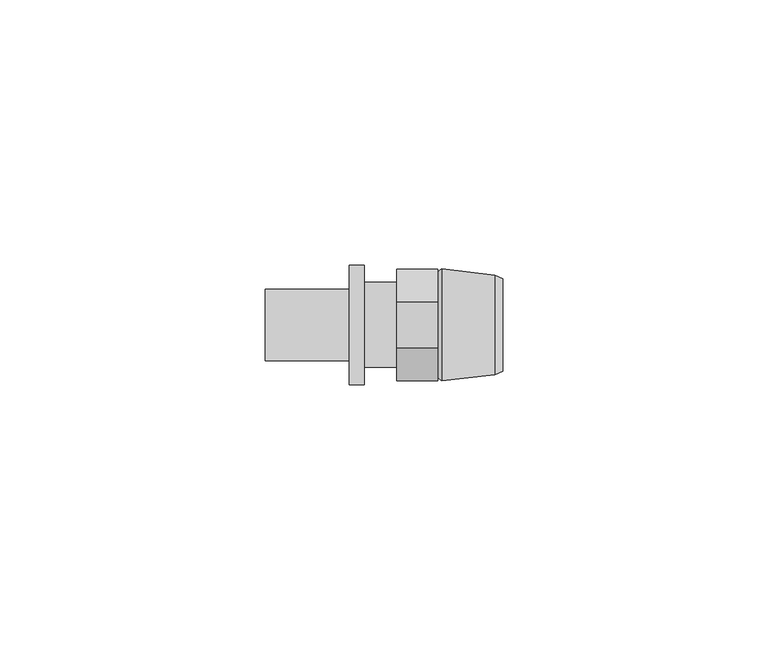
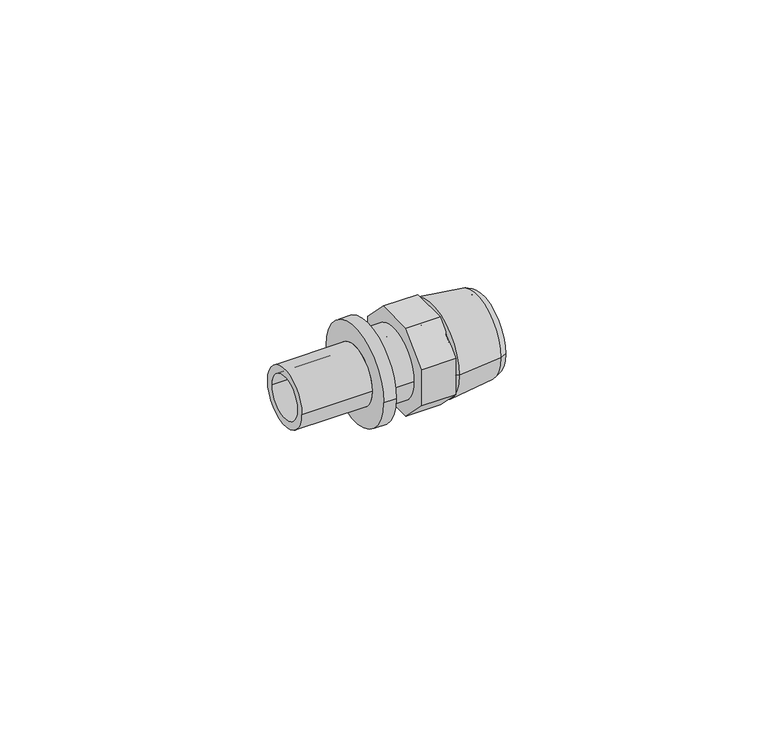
"""IFC4 building model written with IfcOpenShell, lengths in millimetres: pipe fitting geometry, REHAU_RAUTITAN_Adaptor_RX+, with external thread : REHAU_RAUTITAN_Adaptor_RX+, with external thread."""

from ifc_helpers import new_model, si_unit, point, frame, origin, origin_2d, place, context, project, spatial, polyline, circle_curve, trimmed, segment, composite_curve, outline, extrude, source, transform, mapped, element, save
from ifc_brep_helpers import plane_surface, cylinder_surface, revolved_surface, advanced_brep


def pipe_fitting_c5a5d3f0(model_context):
    return source(origin(), model_context, "Body", "SolidModel", [
        advanced_brep(
        [(8.8232803, 7.5, 0.0), (8.8232803, -7.5, 0.0), (19.99, -7.5, 0.0), (19.99, 7.5, 0.0), (7.72, 6.3967197, 0.0), (7.72, -6.3967197, 0.0), (8.4606902, 10.55, 0.0), (8.4606902, -10.55, 0.0), (7.72, -10.0, 0.0), (7.72, 10.0, 0.0), (18.4900007, 9.39, 0.0), (18.4900007, -9.39, 0.0), (19.99, 8.725, 0.0), (19.99, -8.725, 0.0)],
        [
            (0, 1, circle_curve(frame((8.8232803, 0.0, 0.0), z_axis=(-1.0, 0.0, 0.0), x_axis=(0.0, -1.0, 0.0)), 7.5)),
            (1, 2),
            (2, 3, circle_curve(frame((19.99, 0.0, 0.0), z_axis=(1.0, 0.0, 0.0), x_axis=(0.0, -1.0, 0.0)), 7.5)),
            (3, 0),
            (4, 5, circle_curve(frame((7.72, 0.0, 0.0), z_axis=(-1.0, 0.0, 0.0), x_axis=(0.0, -1.0, 0.0)), 6.3967197)),
            (5, 1),
            (0, 4),
            (6, 7, circle_curve(frame((8.4606902, 0.0, 0.0), z_axis=(-1.0, 0.0, 0.0), x_axis=(0.0, -1.0, 0.0)), 10.55)),
            (7, 8),
            (8, 9, circle_curve(frame((7.72, 0.0, 0.0), z_axis=(1.0, 0.0, 0.0), x_axis=(0.0, -1.0, 0.0)), 10.0)),
            (9, 6),
            (10, 11, circle_curve(frame((18.4900007, 0.0, 0.0), z_axis=(-1.0, 0.0, 0.0), x_axis=(0.0, -1.0, 0.0)), 9.39)),
            (11, 7),
            (6, 10),
            (12, 13, circle_curve(frame((19.99, 0.0, 0.0), z_axis=(-1.0, 0.0, 0.0), x_axis=(0.0, -1.0, 0.0)), 8.725)),
            (13, 11),
            (10, 12),
            (1, 0, circle_curve(frame((8.8232803, 0.0, 0.0), z_axis=(-1.0, 0.0, 0.0), x_axis=(0.0, 1.0, 0.0)), 7.5)),
            (3, 2, circle_curve(frame((19.99, 0.0, 0.0), z_axis=(1.0, 0.0, 0.0), x_axis=(0.0, 1.0, 0.0)), 7.5)),
            (5, 4, circle_curve(frame((7.72, 0.0, 0.0), z_axis=(-1.0, 0.0, 0.0), x_axis=(0.0, 1.0, 0.0)), 6.3967197)),
            (8, 9, circle_curve(frame((7.72, 0.0, 0.0), z_axis=(-1.0, 0.0, 0.0), x_axis=(0.0, 1.0, 0.0)), 10.0)),
            (7, 6, circle_curve(frame((8.4606902, 0.0, 0.0), z_axis=(-1.0, 0.0, 0.0), x_axis=(0.0, 1.0, 0.0)), 10.55)),
            (11, 10, circle_curve(frame((18.4900007, 0.0, 0.0), z_axis=(-1.0, 0.0, 0.0), x_axis=(0.0, 1.0, 0.0)), 9.39)),
            (13, 12, circle_curve(frame((19.99, 0.0, 0.0), z_axis=(-1.0, 0.0, 0.0), x_axis=(0.0, 1.0, 0.0)), 8.725)),
        ],
        [
            revolved_surface(polyline([(19.99, -7.5, 0.0), (8.8232803, -7.5, 0.0)]), (0.0, 0.0, 0.0), (1.0, 0.0, 0.0)),
            revolved_surface(polyline([(8.8232803, -7.5, 0.0), (7.72, -6.3967197, 0.0)]), (0.0, 0.0, 0.0), (1.0, 0.0, 0.0)),
            revolved_surface(polyline([(7.72, -10.0, 0.0), (8.4606902, -10.55, 0.0)]), (0.0, 0.0, 0.0), (1.0, 0.0, 0.0)),
            revolved_surface(polyline([(8.4606902, -10.55, 0.0), (18.4900007, -9.39, 0.0)]), (0.0, 0.0, 0.0), (1.0, 0.0, 0.0)),
            revolved_surface(polyline([(18.4900007, -9.39, 0.0), (19.99, -8.725, 0.0)]), (0.0, 0.0, 0.0), (1.0, 0.0, 0.0)),
            revolved_surface(polyline([(19.99, 7.5, 0.0), (8.8232803, 7.5, 0.0)]), (0.0, 0.0, 0.0), (1.0, 0.0, 0.0)),
            revolved_surface(polyline([(8.8232803, 7.5, 0.0), (7.72, 6.3967197, 0.0)]), (0.0, 0.0, 0.0), (1.0, 0.0, 0.0)),
            plane_surface(frame((7.72, 0.0, 0.0), z_axis=(-1.0, 0.0, 0.0), x_axis=(0.0, 1.0, 0.0))),
            revolved_surface(polyline([(7.72, 10.0, 0.0), (8.4606902, 10.55, 0.0)]), (0.0, 0.0, 0.0), (1.0, 0.0, 0.0)),
            revolved_surface(polyline([(8.4606902, 10.55, 0.0), (18.4900007, 9.39, 0.0)]), (0.0, 0.0, 0.0), (1.0, 0.0, 0.0)),
            revolved_surface(polyline([(18.4900007, 9.39, 0.0), (19.99, 8.725, 0.0)]), (0.0, 0.0, 0.0), (1.0, 0.0, 0.0)),
            plane_surface(frame((19.99, 0.0, 0.0), z_axis=(1.0, 0.0, 0.0), x_axis=(0.0, 1.0, 0.0))),
        ],
        [
            (0, [[1, 2, 3, 4]]),
            (1, [[5, 6, -1, 7]]),
            (2, [[8, 9, 10, 11]]),
            (3, [[12, 13, -8, 14]]),
            (4, [[15, 16, -12, 17]]),
            (5, [[18, -4, 19, -2]]),
            (6, [[20, -7, -18, -6]]),
            (7, [[21, -10], [-20, -5]]),
            (8, [[22, -11, -21, -9]]),
            (9, [[23, -14, -22, -13]]),
            (10, [[24, -17, -23, -16]]),
            (11, [[-24, -15], [-19, -3]]),
        ],
    ),
        extrude(outline(polyline([(-4.3492424, -10.5), (-10.5, -4.3492424), (-10.5, 4.3492424), (-4.3492424, 10.5), (4.3492424, 10.5), (10.5, 4.3492424), (10.5, -4.3492424), (4.3492424, -10.5), (-4.3492424, -10.5)]), holes=[composite_curve([segment(trimmed(circle_curve(origin_2d(), 4.95), [point((-4.95, 0.0))], [point((4.95, 0.0))], True, "CARTESIAN"), True, "CONTINUOUS"), segment(trimmed(circle_curve(origin_2d(), 4.95), [point((4.95, 0.0))], [point((-4.95, 0.0))], True, "CARTESIAN"), True, "CONTINUOUS")], self_intersect=False)]), frame((0.0, 0.0, 0.0), z_axis=(1.0, 0.0, 0.0), x_axis=(0.0, 1.0, 0.0)), (0.0, 0.0, 1.0), 7.72),
        advanced_brep(
        [(-24.8, 4.95, 0.0), (-24.8, -4.95, 0.0), (0.0, -4.95, 0.0), (0.0, 4.95, 0.0), (-8.97, 6.725, 0.0), (-8.97, -6.725, 0.0), (-24.8, -6.725, 0.0), (-24.8, 6.725, 0.0), (-6.1, 11.25, 0.0), (-6.1, -11.25, 0.0), (-8.97, -11.25, 0.0), (-8.97, 11.25, 0.0), (0.0, 8.0, 0.0), (0.0, -8.0, 0.0), (-6.1, -8.0, 0.0), (-6.1, 8.0, 0.0)],
        [
            (0, 1, circle_curve(frame((-24.8, 0.0, 0.0), z_axis=(-1.0, 0.0, 0.0), x_axis=(0.0, -1.0, 0.0)), 4.95)),
            (1, 2),
            (2, 3, circle_curve(frame((0.0, 0.0, 0.0), z_axis=(1.0, 0.0, 0.0), x_axis=(0.0, -1.0, 0.0)), 4.95)),
            (3, 0),
            (4, 5, circle_curve(frame((-8.97, 0.0, 0.0), z_axis=(-1.0, 0.0, 0.0), x_axis=(0.0, -1.0, 0.0)), 6.725)),
            (5, 6),
            (6, 7, circle_curve(frame((-24.8, 0.0, 0.0), z_axis=(1.0, 0.0, 0.0), x_axis=(0.0, -1.0, 0.0)), 6.725)),
            (7, 4),
            (8, 9, circle_curve(frame((-6.1, 0.0, 0.0), z_axis=(-1.0, 0.0, 0.0), x_axis=(0.0, -1.0, 0.0)), 11.25)),
            (9, 10),
            (10, 11, circle_curve(frame((-8.97, 0.0, 0.0), z_axis=(1.0, 0.0, 0.0), x_axis=(0.0, -1.0, 0.0)), 11.25)),
            (11, 8),
            (12, 13, circle_curve(frame((0.0, 0.0, 0.0), z_axis=(-1.0, 0.0, 0.0), x_axis=(0.0, -1.0, 0.0)), 8.0)),
            (13, 14),
            (14, 15, circle_curve(frame((-6.1, 0.0, 0.0), z_axis=(1.0, 0.0, 0.0), x_axis=(0.0, -1.0, 0.0)), 8.0)),
            (15, 12),
            (12, 13, circle_curve(frame((0.0, 0.0, 0.0), z_axis=(1.0, 0.0, 0.0), x_axis=(0.0, 1.0, 0.0)), 8.0)),
            (2, 3, circle_curve(frame((0.0, 0.0, 0.0), z_axis=(-1.0, 0.0, 0.0), x_axis=(0.0, 1.0, 0.0)), 4.95)),
            (1, 0, circle_curve(frame((-24.8, 0.0, 0.0), z_axis=(-1.0, 0.0, 0.0), x_axis=(0.0, 1.0, 0.0)), 4.95)),
            (6, 7, circle_curve(frame((-24.8, 0.0, 0.0), z_axis=(-1.0, 0.0, 0.0), x_axis=(0.0, 1.0, 0.0)), 6.725)),
            (5, 4, circle_curve(frame((-8.97, 0.0, 0.0), z_axis=(-1.0, 0.0, 0.0), x_axis=(0.0, 1.0, 0.0)), 6.725)),
            (10, 11, circle_curve(frame((-8.97, 0.0, 0.0), z_axis=(-1.0, 0.0, 0.0), x_axis=(0.0, 1.0, 0.0)), 11.25)),
            (9, 8, circle_curve(frame((-6.1, 0.0, 0.0), z_axis=(-1.0, 0.0, 0.0), x_axis=(0.0, 1.0, 0.0)), 11.25)),
            (14, 15, circle_curve(frame((-6.1, 0.0, 0.0), z_axis=(-1.0, 0.0, 0.0), x_axis=(0.0, 1.0, 0.0)), 8.0)),
        ],
        [
            revolved_surface(polyline([(0.0, -4.95, 0.0), (-24.8, -4.95, 0.0)]), (0.0, 0.0, 0.0), (1.0, 0.0, 0.0)),
            cylinder_surface(frame((0.0, 0.0, 0.0), z_axis=(1.0, 0.0, 0.0), x_axis=(0.0, -1.0, 0.0)), 6.725),
            cylinder_surface(frame((0.0, 0.0, 0.0), z_axis=(1.0, 0.0, 0.0), x_axis=(0.0, -1.0, 0.0)), 11.25),
            cylinder_surface(frame((0.0, 0.0, 0.0), z_axis=(1.0, 0.0, 0.0), x_axis=(0.0, -1.0, 0.0)), 8.0),
            plane_surface(frame((0.0, 0.0, 0.0), z_axis=(1.0, 0.0, 0.0), x_axis=(0.0, 1.0, 0.0))),
            revolved_surface(polyline([(0.0, 4.95, 0.0), (-24.8, 4.95, 0.0)]), (0.0, 0.0, 0.0), (1.0, 0.0, 0.0)),
            plane_surface(frame((-24.8, 0.0, 0.0), z_axis=(-1.0, 0.0, 0.0), x_axis=(0.0, 1.0, 0.0))),
            cylinder_surface(frame((0.0, 0.0, 0.0), z_axis=(1.0, 0.0, 0.0), x_axis=(0.0, 1.0, 0.0)), 6.725),
            plane_surface(frame((-8.97, 0.0, 0.0), z_axis=(-1.0, 0.0, 0.0), x_axis=(0.0, 1.0, 0.0))),
            cylinder_surface(frame((0.0, 0.0, 0.0), z_axis=(1.0, 0.0, 0.0), x_axis=(0.0, 1.0, 0.0)), 11.25),
            plane_surface(frame((-6.1, 0.0, 0.0), z_axis=(1.0, 0.0, 0.0), x_axis=(0.0, 1.0, 0.0))),
            cylinder_surface(frame((0.0, 0.0, 0.0), z_axis=(1.0, 0.0, 0.0), x_axis=(0.0, 1.0, 0.0)), 8.0),
        ],
        [
            (0, [[1, 2, 3, 4]]),
            (1, [[5, 6, 7, 8]]),
            (2, [[9, 10, 11, 12]]),
            (3, [[13, 14, 15, 16]]),
            (4, [[17, -13], [18, -3]]),
            (5, [[19, -4, -18, -2]]),
            (6, [[20, -7], [-19, -1]]),
            (7, [[21, -8, -20, -6]]),
            (8, [[22, -11], [-21, -5]]),
            (9, [[23, -12, -22, -10]]),
            (10, [[-23, -9], [24, -15]]),
            (11, [[-17, -16, -24, -14]]),
        ],
    ),
    ])


if __name__ == "__main__":
    model = new_model("IFC4")
    model_context = context("Model", 3, world=origin())
    ifc_project = project(units=[si_unit("LENGTHUNIT", "METRE", prefix="MILLI")], contexts=[model_context])
    site = spatial("IfcSite", under=ifc_project)
    building = spatial("IfcBuilding", under=site)
    placement = place(None, origin())
    pipe_fitting_shape = pipe_fitting_c5a5d3f0(model_context)
    element("IfcPipeFitting", 1, ObjectType="REHAU_RAUTITAN_Adaptor_RX+, with external thread : REHAU_RAUTITAN_Adaptor_RX+, with external thread", at=placement, inside=building, context=model_context, shape_type="MappedRepresentation", body=[
        mapped(pipe_fitting_shape, transform((0.0, 0.0, 0.0), x_axis=(1.0, 0.0, 0.0), y_axis=(0.0, 1.0, 0.0), z_axis=(0.0, 0.0, 1.0))),
    ])
    save(model, "model.ifc")
